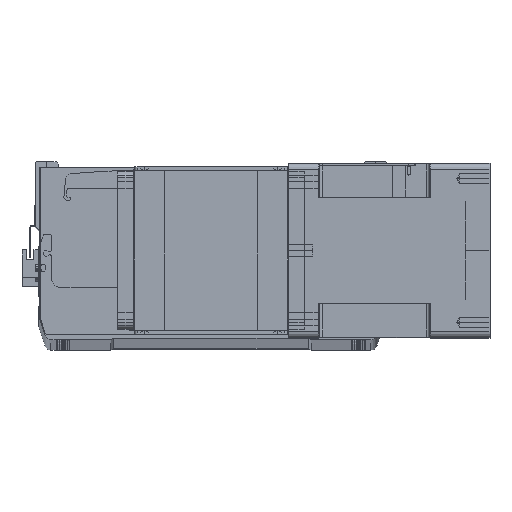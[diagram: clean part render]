
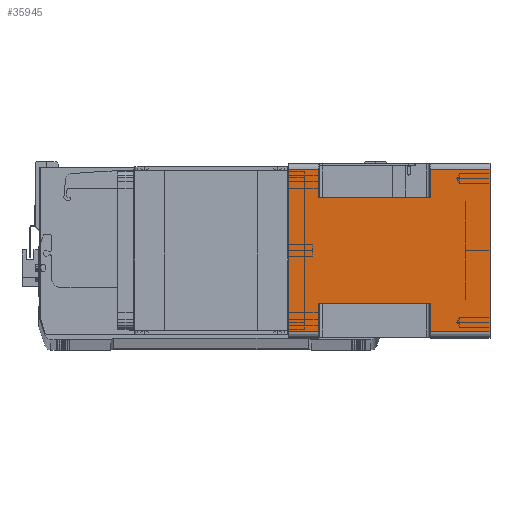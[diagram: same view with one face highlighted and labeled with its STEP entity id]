
A CAD part, top view. The second image highlights one B-rep face of the part: STEP entity #35945.
In plain terms, the highlighted planar face has unit normal (0, 0, 1) as drawn and (1, 0, 0) by its records, which use the part's own axes.
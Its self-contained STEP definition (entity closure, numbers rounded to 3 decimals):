
#2275 = VECTOR ( 'NONE', #18212, 1000. ) ;
#2489 = ORIENTED_EDGE ( 'NONE', *, *, #37726, .T. ) ;
#2657 = CARTESIAN_POINT ( 'NONE',  ( 71., 66., -24.5 ) ) ;
#2693 = CARTESIAN_POINT ( 'NONE',  ( 71., 43., -115.5 ) ) ;
#2801 = EDGE_CURVE ( 'NONE', #34504, #11668, #13753, .T. ) ;
#2964 = ORIENTED_EDGE ( 'NONE', *, *, #2801, .T. ) ;
#3254 = LINE ( 'NONE', #7365, #31866 ) ;
#3678 = PLANE ( 'NONE',  #4331 ) ;
#4171 = DIRECTION ( 'NONE',  ( 0., 1., 0. ) ) ;
#4331 = AXIS2_PLACEMENT_3D ( 'NONE', #34489, #9647, #31113 ) ;
#4428 = VERTEX_POINT ( 'NONE', #7451 ) ;
#5240 = CARTESIAN_POINT ( 'NONE',  ( 71., -66., -24.5 ) ) ;
#5398 = VERTEX_POINT ( 'NONE', #6725 ) ;
#5966 = ORIENTED_EDGE ( 'NONE', *, *, #20396, .T. ) ;
#6725 = CARTESIAN_POINT ( 'NONE',  ( 71., 66., -164. ) ) ;
#7365 = CARTESIAN_POINT ( 'NONE',  ( 71., -66., 0. ) ) ;
#7451 = CARTESIAN_POINT ( 'NONE',  ( 71., 43., -115.5 ) ) ;
#7723 = ORIENTED_EDGE ( 'NONE', *, *, #26227, .T. ) ;
#7924 = VERTEX_POINT ( 'NONE', #23988 ) ;
#8325 = EDGE_CURVE ( 'NONE', #15635, #36159, #13055, .T. ) ;
#8388 = ORIENTED_EDGE ( 'NONE', *, *, #9257, .F. ) ;
#8737 = CARTESIAN_POINT ( 'NONE',  ( 71., 43., -24.5 ) ) ;
#8803 = DIRECTION ( 'NONE',  ( 0., -1., 0. ) ) ;
#9068 = VECTOR ( 'NONE', #11849, 1000. ) ;
#9095 = DIRECTION ( 'NONE',  ( 0., 0., 1. ) ) ;
#9257 = EDGE_CURVE ( 'NONE', #34504, #4428, #21093, .T. ) ;
#9584 = LINE ( 'NONE', #24700, #12461 ) ;
#9647 = DIRECTION ( 'NONE',  ( 1., 0., 0. ) ) ;
#10146 = CARTESIAN_POINT ( 'NONE',  ( 71., -66., 0. ) ) ;
#10347 = VECTOR ( 'NONE', #28369, 1000. ) ;
#11606 = EDGE_CURVE ( 'NONE', #11668, #22644, #29936, .T. ) ;
#11668 = VERTEX_POINT ( 'NONE', #2657 ) ;
#11849 = DIRECTION ( 'NONE',  ( 0., -1., 0. ) ) ;
#12461 = VECTOR ( 'NONE', #27660, 1000. ) ;
#13055 = LINE ( 'NONE', #20939, #33630 ) ;
#13753 = LINE ( 'NONE', #5240, #20902 ) ;
#13871 = CARTESIAN_POINT ( 'NONE',  ( 71., -43., -24.5 ) ) ;
#14277 = ORIENTED_EDGE ( 'NONE', *, *, #8325, .F. ) ;
#14439 = EDGE_LOOP ( 'NONE', ( #14277, #2489, #17969, #14582, #7723, #31884, #8388, #2964, #36975, #32505, #25694, #5966 ) ) ;
#14544 = DIRECTION ( 'NONE',  ( 0., 1., 0. ) ) ;
#14582 = ORIENTED_EDGE ( 'NONE', *, *, #33458, .T. ) ;
#14724 = DIRECTION ( 'NONE',  ( 0., 1., 0. ) ) ;
#15292 = VECTOR ( 'NONE', #8803, 1000. ) ;
#15635 = VERTEX_POINT ( 'NONE', #22559 ) ;
#16345 = VECTOR ( 'NONE', #22841, 1000. ) ;
#17515 = LINE ( 'NONE', #19242, #10347 ) ;
#17638 = CARTESIAN_POINT ( 'NONE',  ( 71., -43., -24.5 ) ) ;
#17947 = CARTESIAN_POINT ( 'NONE',  ( 71., 66., -164. ) ) ;
#17969 = ORIENTED_EDGE ( 'NONE', *, *, #32666, .F. ) ;
#18212 = DIRECTION ( 'NONE',  ( 0., 0., 1. ) ) ;
#18252 = VERTEX_POINT ( 'NONE', #25463 ) ;
#18567 = DIRECTION ( 'NONE',  ( 0., 0., -1. ) ) ;
#18608 = LINE ( 'NONE', #2693, #15292 ) ;
#19242 = CARTESIAN_POINT ( 'NONE',  ( 71., -66., -164. ) ) ;
#19290 = VECTOR ( 'NONE', #14544, 1000. ) ;
#20396 = EDGE_CURVE ( 'NONE', #38393, #36159, #30316, .T. ) ;
#20902 = VECTOR ( 'NONE', #20906, 1000. ) ;
#20906 = DIRECTION ( 'NONE',  ( 0., 1., 0. ) ) ;
#20939 = CARTESIAN_POINT ( 'NONE',  ( 71., -43., -164. ) ) ;
#21093 = LINE ( 'NONE', #21488, #27840 ) ;
#21488 = CARTESIAN_POINT ( 'NONE',  ( 71., 43., -164. ) ) ;
#22494 = CARTESIAN_POINT ( 'NONE',  ( 71., 66., 0. ) ) ;
#22559 = CARTESIAN_POINT ( 'NONE',  ( 71., -43., -115.5 ) ) ;
#22644 = VERTEX_POINT ( 'NONE', #22494 ) ;
#22841 = DIRECTION ( 'NONE',  ( 0., 0., 1. ) ) ;
#23988 = CARTESIAN_POINT ( 'NONE',  ( 71., -66., -115.5 ) ) ;
#24182 = CARTESIAN_POINT ( 'NONE',  ( 71., -66., -24.5 ) ) ;
#24700 = CARTESIAN_POINT ( 'NONE',  ( 71., 66., -164. ) ) ;
#25283 = LINE ( 'NONE', #30112, #9068 ) ;
#25463 = CARTESIAN_POINT ( 'NONE',  ( 71., -66., -164. ) ) ;
#25694 = ORIENTED_EDGE ( 'NONE', *, *, #30495, .F. ) ;
#26227 = EDGE_CURVE ( 'NONE', #5398, #26460, #9584, .T. ) ;
#26334 = CARTESIAN_POINT ( 'NONE',  ( 71., -66., -164. ) ) ;
#26460 = VERTEX_POINT ( 'NONE', #29220 ) ;
#26834 = LINE ( 'NONE', #26334, #16345 ) ;
#27660 = DIRECTION ( 'NONE',  ( 0., 0., 1. ) ) ;
#27840 = VECTOR ( 'NONE', #18567, 1000. ) ;
#28369 = DIRECTION ( 'NONE',  ( 0., 0., 1. ) ) ;
#29220 = CARTESIAN_POINT ( 'NONE',  ( 71., 66., -115.5 ) ) ;
#29847 = EDGE_CURVE ( 'NONE', #36070, #22644, #3254, .T. ) ;
#29936 = LINE ( 'NONE', #17947, #2275 ) ;
#30112 = CARTESIAN_POINT ( 'NONE',  ( 71., -66., -115.5 ) ) ;
#30316 = LINE ( 'NONE', #17638, #37471 ) ;
#30495 = EDGE_CURVE ( 'NONE', #38393, #36070, #26834, .T. ) ;
#31113 = DIRECTION ( 'NONE',  ( 0., 1., 0. ) ) ;
#31138 = EDGE_CURVE ( 'NONE', #26460, #4428, #18608, .T. ) ;
#31866 = VECTOR ( 'NONE', #4171, 1000. ) ;
#31884 = ORIENTED_EDGE ( 'NONE', *, *, #31138, .T. ) ;
#32505 = ORIENTED_EDGE ( 'NONE', *, *, #29847, .F. ) ;
#32666 = EDGE_CURVE ( 'NONE', #18252, #7924, #17515, .T. ) ;
#33458 = EDGE_CURVE ( 'NONE', #18252, #5398, #33693, .T. ) ;
#33630 = VECTOR ( 'NONE', #9095, 1000. ) ;
#33693 = LINE ( 'NONE', #38613, #19290 ) ;
#34489 = CARTESIAN_POINT ( 'NONE',  ( 71., -66., -164. ) ) ;
#34504 = VERTEX_POINT ( 'NONE', #8737 ) ;
#35945 = ADVANCED_FACE ( 'NONE', ( #36015 ), #3678, .T. ) ;
#36015 = FACE_OUTER_BOUND ( 'NONE', #14439, .T. ) ;
#36070 = VERTEX_POINT ( 'NONE', #10146 ) ;
#36159 = VERTEX_POINT ( 'NONE', #13871 ) ;
#36975 = ORIENTED_EDGE ( 'NONE', *, *, #11606, .T. ) ;
#37471 = VECTOR ( 'NONE', #14724, 1000. ) ;
#37726 = EDGE_CURVE ( 'NONE', #15635, #7924, #25283, .T. ) ;
#38393 = VERTEX_POINT ( 'NONE', #24182 ) ;
#38613 = CARTESIAN_POINT ( 'NONE',  ( 71., -66., -164. ) ) ;
